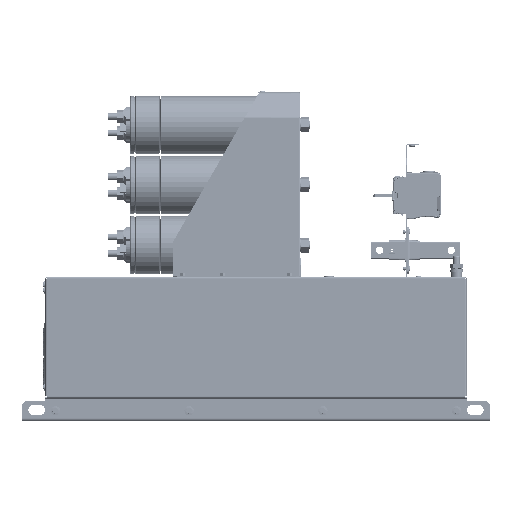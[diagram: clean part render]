
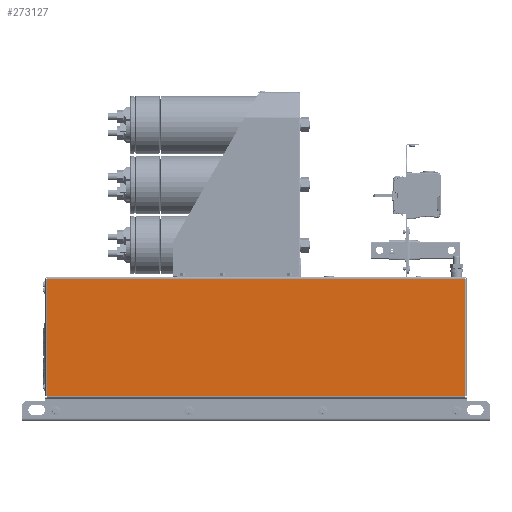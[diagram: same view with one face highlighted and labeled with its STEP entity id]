
A CAD part, left-side view. The second image highlights one B-rep face of the part: STEP entity #273127.
In plain terms, the highlighted planar face has unit normal (-1, 0, 0).
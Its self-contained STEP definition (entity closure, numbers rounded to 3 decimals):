
#13855=PLANE('',#292160);
#23945=FACE_OUTER_BOUND('',#39331,.T.);
#39331=EDGE_LOOP('',(#204298,#204299,#204300,#204301));
#61034=LINE('',#463986,#84331);
#61114=LINE('',#464220,#84411);
#61172=LINE('',#464599,#84469);
#61173=LINE('',#464600,#84470);
#84331=VECTOR('',#340939,10.);
#84411=VECTOR('',#341115,10.);
#84469=VECTOR('',#341251,10.);
#84470=VECTOR('',#341252,10.);
#117059=VERTEX_POINT('',#463979);
#117062=VERTEX_POINT('',#463984);
#117141=VERTEX_POINT('',#464206);
#117204=VERTEX_POINT('',#464598);
#147816=EDGE_CURVE('',#117059,#117062,#61034,.T.);
#147921=EDGE_CURVE('',#117062,#117141,#61114,.T.);
#148015=EDGE_CURVE('',#117059,#117204,#61172,.T.);
#148016=EDGE_CURVE('',#117204,#117141,#61173,.T.);
#204298=ORIENTED_EDGE('',*,*,#148015,.F.);
#204299=ORIENTED_EDGE('',*,*,#147816,.T.);
#204300=ORIENTED_EDGE('',*,*,#147921,.T.);
#204301=ORIENTED_EDGE('',*,*,#148016,.F.);
#273127=ADVANCED_FACE('',(#23945),#13855,.F.);
#292160=AXIS2_PLACEMENT_3D('',#464597,#341249,#341250);
#340939=DIRECTION('',(0.,1.,0.));
#341115=DIRECTION('',(0.,0.,-1.));
#341249=DIRECTION('center_axis',(1.,0.,0.));
#341250=DIRECTION('ref_axis',(0.,0.,
-1.));
#341251=DIRECTION('',(0.,0.,-1.));
#341252=DIRECTION('',(0.,1.,0.));
#463979=CARTESIAN_POINT('',(-225.,-312.7,212.7));
#463984=CARTESIAN_POINT('',(-225.,312.7,212.7));
#463986=CARTESIAN_POINT('',(-225.,315.,212.7));
#464206=CARTESIAN_POINT('',(-225.,312.7,36.353));
#464220=CARTESIAN_POINT('',(-225.,312.7,116.05));
#464597=CARTESIAN_POINT('Origin',(-225.,-315.,35.4));
#464598=CARTESIAN_POINT('',(-225.,-312.7,36.353));
#464599=CARTESIAN_POINT('',(-225.,-312.7,196.71));
#464600=CARTESIAN_POINT('',(-225.,-315.,36.353));
